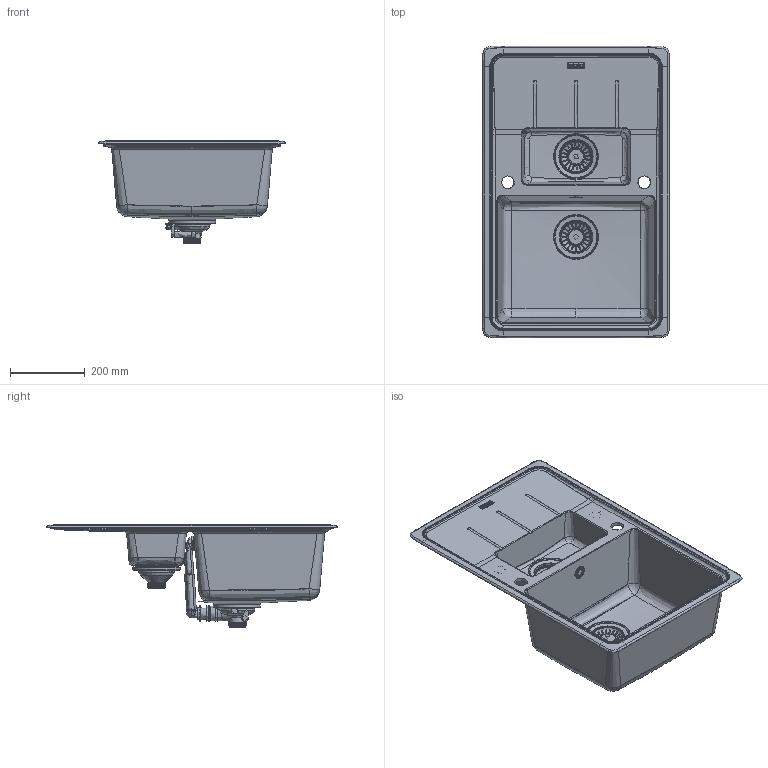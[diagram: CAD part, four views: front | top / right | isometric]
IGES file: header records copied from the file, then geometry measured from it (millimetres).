
Global section: file name: F:\_CONVERSIONE_CAD_2024_2025\_2024\03_3D kits new\Sinks\BASIS\114.0706.691 3D001_Sinks_Basis_BFG-651-78\3D001_Sinks_Basis_BFG-651-78.igs; native system: Rhinoceros ( May 17 2024 ); preprocessor: Trout Lake IGES 012 May 17 2024; date: 240626.133753; units: millimetre
Bounding box: 499.86 x 779.86 x 273.5 mm (x, y, z)
Surface area: 1523592.2 mm2 (no closed solid volume)
Topology: 0 solids, 0 shells, 3090 faces, 23748 edges, 23631 vertices
Faces by surface type: bspline 3090
